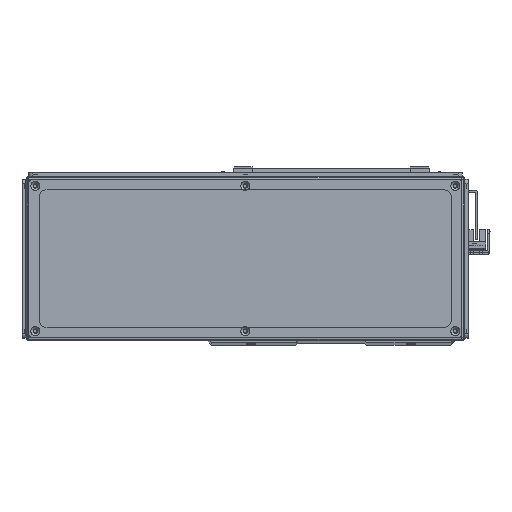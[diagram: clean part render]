
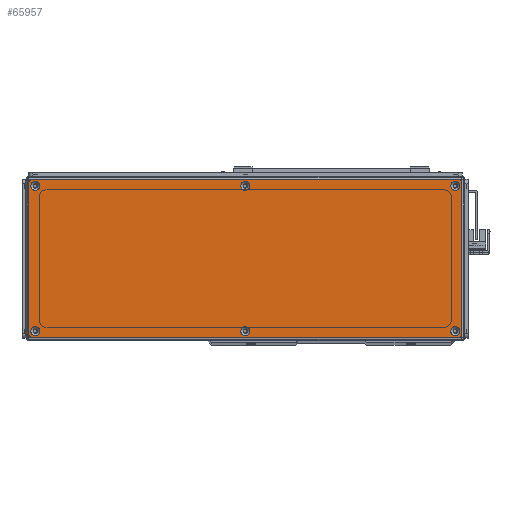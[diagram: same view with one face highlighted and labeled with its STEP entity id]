
A CAD part, top view. The second image highlights one B-rep face of the part: STEP entity #65957.
In plain terms, the highlighted planar face has unit normal (0, 0, 1) as drawn and (0, -1, 0) by its records, which use the part's own axes.
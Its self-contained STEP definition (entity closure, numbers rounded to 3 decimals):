
#1170=FACE_BOUND('',#9836,.T.);
#1171=FACE_BOUND('',#9837,.T.);
#1172=FACE_BOUND('',#9838,.T.);
#1173=FACE_BOUND('',#9839,.T.);
#1174=FACE_BOUND('',#9840,.T.);
#1175=FACE_BOUND('',#9841,.T.);
#2000=PLANE('',#71083);
#5960=FACE_OUTER_BOUND('',#9835,.T.);
#9835=EDGE_LOOP('',(#51777,#51778,#51779,#51780,#51781,#51782,#51783,#51784));
#9836=EDGE_LOOP('',(#51785));
#9837=EDGE_LOOP('',(#51786));
#9838=EDGE_LOOP('',(#51787));
#9839=EDGE_LOOP('',(#51788));
#9840=EDGE_LOOP('',(#51789));
#9841=EDGE_LOOP('',(#51790));
#14313=LINE('',#99146,#22161);
#14314=LINE('',#99150,#22162);
#14315=LINE('',#99154,#22163);
#14316=LINE('',#99157,#22164);
#22161=VECTOR('',#80569,10.);
#22162=VECTOR('',#80572,10.);
#22163=VECTOR('',#80575,10.);
#22164=VECTOR('',#80578,10.);
#29099=CIRCLE('',#71051,3.45);
#29102=CIRCLE('',#71056,3.45);
#29105=CIRCLE('',#71061,3.45);
#29108=CIRCLE('',#71066,3.45);
#29111=CIRCLE('',#71071,3.45);
#29114=CIRCLE('',#71076,3.45);
#29117=CIRCLE('',#71081,3.);
#29119=CIRCLE('',#71084,3.);
#29120=CIRCLE('',#71085,3.);
#29121=CIRCLE('',#71086,3.);
#31629=VERTEX_POINT('',#99076);
#31632=VERTEX_POINT('',#99086);
#31635=VERTEX_POINT('',#99096);
#31638=VERTEX_POINT('',#99106);
#31641=VERTEX_POINT('',#99116);
#31644=VERTEX_POINT('',#99126);
#31647=VERTEX_POINT('',#99136);
#31648=VERTEX_POINT('',#99137);
#31651=VERTEX_POINT('',#99145);
#31652=VERTEX_POINT('',#99147);
#31653=VERTEX_POINT('',#99149);
#31654=VERTEX_POINT('',#99151);
#31655=VERTEX_POINT('',#99153);
#31656=VERTEX_POINT('',#99155);
#39028=EDGE_CURVE('',#31629,#31629,#29099,.T.);
#39033=EDGE_CURVE('',#31632,#31632,#29102,.T.);
#39038=EDGE_CURVE('',#31635,#31635,#29105,.T.);
#39043=EDGE_CURVE('',#31638,#31638,#29108,.T.);
#39048=EDGE_CURVE('',#31641,#31641,#29111,.T.);
#39053=EDGE_CURVE('',#31644,#31644,#29114,.T.);
#39058=EDGE_CURVE('',#31647,#31648,#29117,.T.);
#39062=EDGE_CURVE('',#31647,#31651,#14313,.T.);
#39063=EDGE_CURVE('',#31652,#31651,#29119,.T.);
#39064=EDGE_CURVE('',#31652,#31653,#14314,.T.);
#39065=EDGE_CURVE('',#31654,#31653,#29120,.T.);
#39066=EDGE_CURVE('',#31654,#31655,#14315,.T.);
#39067=EDGE_CURVE('',#31656,#31655,#29121,.T.);
#39068=EDGE_CURVE('',#31656,#31648,#14316,.T.);
#51777=ORIENTED_EDGE('',*,*,#39058,.F.);
#51778=ORIENTED_EDGE('',*,*,#39062,.T.);
#51779=ORIENTED_EDGE('',*,*,#39063,.F.);
#51780=ORIENTED_EDGE('',*,*,#39064,.T.);
#51781=ORIENTED_EDGE('',*,*,#39065,.F.);
#51782=ORIENTED_EDGE('',*,*,#39066,.T.);
#51783=ORIENTED_EDGE('',*,*,#39067,.F.);
#51784=ORIENTED_EDGE('',*,*,#39068,.T.);
#51785=ORIENTED_EDGE('',*,*,#39028,.T.);
#51786=ORIENTED_EDGE('',*,*,#39033,.T.);
#51787=ORIENTED_EDGE('',*,*,#39038,.T.);
#51788=ORIENTED_EDGE('',*,*,#39043,.T.);
#51789=ORIENTED_EDGE('',*,*,#39048,.T.);
#51790=ORIENTED_EDGE('',*,*,#39053,.T.);
#65957=ADVANCED_FACE('',(#5960,#1170,#1171,#1172,#1173,#1174,#1175),#2000,
 .T.);
#71051=AXIS2_PLACEMENT_3D('',#99077,#80489,#80490);
#71056=AXIS2_PLACEMENT_3D('',#99087,#80501,#80502);
#71061=AXIS2_PLACEMENT_3D('',#99097,#80513,#80514);
#71066=AXIS2_PLACEMENT_3D('',#99107,#80525,#80526);
#71071=AXIS2_PLACEMENT_3D('',#99117,#80537,#80538);
#71076=AXIS2_PLACEMENT_3D('',#99127,#80549,#80550);
#71081=AXIS2_PLACEMENT_3D('',#99138,#80561,#80562);
#71083=AXIS2_PLACEMENT_3D('',#99144,#80567,#80568);
#71084=AXIS2_PLACEMENT_3D('',#99148,#80570,#80571);
#71085=AXIS2_PLACEMENT_3D('',#99152,#80573,#80574);
#71086=AXIS2_PLACEMENT_3D('',#99156,#80576,#80577);
#80489=DIRECTION('center_axis',(0.,1.,0.));
#80490=DIRECTION('ref_axis',(1.,0.,0.));
#80501=DIRECTION('center_axis',(0.,1.,0.));
#80502=DIRECTION('ref_axis',(1.,0.,0.));
#80513=DIRECTION('center_axis',(0.,1.,0.));
#80514=DIRECTION('ref_axis',(1.,0.,0.));
#80525=DIRECTION('center_axis',(0.,1.,0.));
#80526=DIRECTION('ref_axis',(1.,0.,0.));
#80537=DIRECTION('center_axis',(0.,1.,0.));
#80538=DIRECTION('ref_axis',(1.,0.,0.));
#80549=DIRECTION('center_axis',(0.,1.,0.));
#80550=DIRECTION('ref_axis',(1.,0.,0.));
#80561=DIRECTION('center_axis',(0.,1.,0.));
#80562=DIRECTION('ref_axis',(-0.707,0.,0.707));
#80567=DIRECTION('center_axis',(0.,-1.,0.));
#80568=DIRECTION('ref_axis',(0.,0.,-1.));
#80569=DIRECTION('',(0.,0.,-1.));
#80570=DIRECTION('center_axis',(0.,1.,0.));
#80571=DIRECTION('ref_axis',(-0.707,0.,-0.707));
#80572=DIRECTION('',(1.,0.,0.));
#80573=DIRECTION('center_axis',(0.,1.,0.));
#80574=DIRECTION('ref_axis',(0.707,0.,-0.707));
#80575=DIRECTION('',(0.,0.,1.));
#80576=DIRECTION('center_axis',(0.,1.,0.));
#80577=DIRECTION('ref_axis',(0.707,0.,0.707));
#80578=DIRECTION('',(-1.,0.,0.));
#99076=CARTESIAN_POINT('',(154.05,-1.5,54.5));
#99077=CARTESIAN_POINT('Origin',(157.5,-1.5,54.5));
#99086=CARTESIAN_POINT('',(-3.45,-1.5,54.5));
#99087=CARTESIAN_POINT('Origin',(0.,-1.5,54.5));
#99096=CARTESIAN_POINT('',(-160.95,-1.5,54.5));
#99097=CARTESIAN_POINT('Origin',(-157.5,-1.5,54.5));
#99106=CARTESIAN_POINT('',(-160.95,-1.5,-54.5));
#99107=CARTESIAN_POINT('Origin',(-157.5,-1.5,-54.5));
#99116=CARTESIAN_POINT('',(-3.45,-1.5,-54.5));
#99117=CARTESIAN_POINT('Origin',(0.,-1.5,-54.5));
#99126=CARTESIAN_POINT('',(154.05,-1.5,-54.5));
#99127=CARTESIAN_POINT('Origin',(157.5,-1.5,-54.5));
#99136=CARTESIAN_POINT('',(-162.5,-1.5,56.5));
#99137=CARTESIAN_POINT('',(-159.5,-1.5,59.5));
#99138=CARTESIAN_POINT('Origin',(-159.5,-1.5,56.5));
#99144=CARTESIAN_POINT('Origin',(0.,-1.5,0.));
#99145=CARTESIAN_POINT('',(-162.5,-1.5,-56.5));
#99146=CARTESIAN_POINT('',(-162.5,-1.5,59.5));
#99147=CARTESIAN_POINT('',(-159.5,-1.5,-59.5));
#99148=CARTESIAN_POINT('Origin',(-159.5,-1.5,-56.5));
#99149=CARTESIAN_POINT('',(159.5,-1.5,-59.5));
#99150=CARTESIAN_POINT('',(-162.5,-1.5,-59.5));
#99151=CARTESIAN_POINT('',(162.5,-1.5,-56.5));
#99152=CARTESIAN_POINT('Origin',(159.5,-1.5,-56.5));
#99153=CARTESIAN_POINT('',(162.5,-1.5,56.5));
#99154=CARTESIAN_POINT('',(162.5,-1.5,-59.5));
#99155=CARTESIAN_POINT('',(159.5,-1.5,59.5));
#99156=CARTESIAN_POINT('Origin',(159.5,-1.5,56.5));
#99157=CARTESIAN_POINT('',(162.5,-1.5,59.5));
